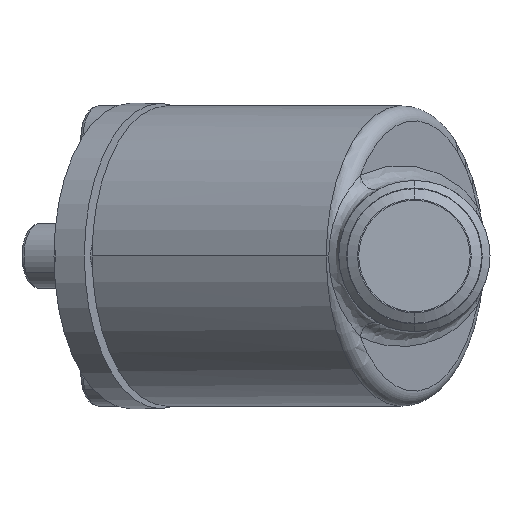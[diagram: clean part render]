
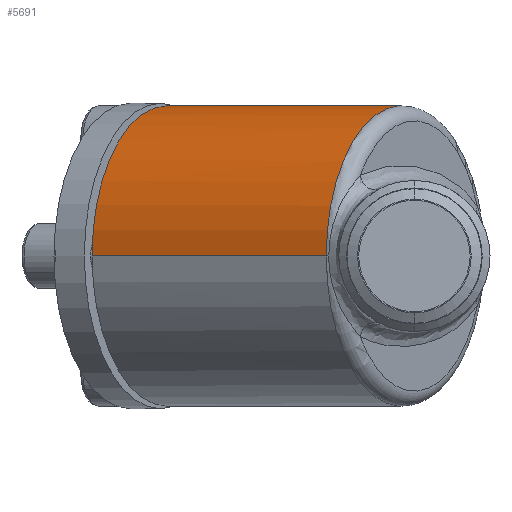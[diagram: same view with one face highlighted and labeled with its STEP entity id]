
A CAD part, left-side view. The second image highlights one B-rep face of the part: STEP entity #5691.
In plain terms, the highlighted cylindrical face has radius 30 mm (diameter 60 mm), a partial arc.
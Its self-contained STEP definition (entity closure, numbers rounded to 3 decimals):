
#559 = EDGE_CURVE ( 'NONE', #2820, #12874, #14538, .T. ) ;
#898 = ORIENTED_EDGE ( 'NONE', *, *, #559, .T. ) ;
#1265 = VERTEX_POINT ( 'NONE', #6157 ) ;
#1365 = EDGE_CURVE ( 'NONE', #1467, #2820, #6210, .T. ) ;
#1467 = VERTEX_POINT ( 'NONE', #9863 ) ;
#1639 = ORIENTED_EDGE ( 'NONE', *, *, #1365, .T. ) ;
#1674 = EDGE_CURVE ( 'NONE', #1467, #1265, #10018, .T. ) ;
#2011 = ORIENTED_EDGE ( 'NONE', *, *, #1674, .F. ) ;
#2820 = VERTEX_POINT ( 'NONE', #4894 ) ;
#4894 = CARTESIAN_POINT ( 'NONE',  ( 27., 17.598, 0. ) ) ;
#5338 = CARTESIAN_POINT ( 'NONE',  ( 76.85, -11.183, 11.847 ) ) ;
#5474 = EDGE_LOOP ( 'NONE', ( #2011, #1639, #898, #12841, #10488 ) ) ;
#5691 = ADVANCED_FACE ( 'NONE', ( #6216 ), #6217, .T. ) ;
#6157 = CARTESIAN_POINT ( 'NONE',  ( 105.962, 34.363, 0. ) ) ;
#6210 = LINE ( 'NONE', #6211, #6212 ) ;
#6211 = CARTESIAN_POINT ( 'NONE',  ( 54., 64.363, 0. ) ) ;
#6212 = VECTOR ( 'NONE', #6213, 1000. ) ;
#6213 = DIRECTION ( 'NONE',  ( -0.5, -0.866, 0. ) ) ;
#6216 = FACE_OUTER_BOUND ( 'NONE', #5474, .T. ) ;
#6217 = CYLINDRICAL_SURFACE ( 'NONE', #6218, 30. ) ;
#6218 = AXIS2_PLACEMENT_3D ( 'NONE', #6219, #6220, #6221 ) ;
#6219 = CARTESIAN_POINT ( 'NONE',  ( 79.981, 49.363, 0. ) ) ;
#6220 = DIRECTION ( 'NONE',  ( -0.5, -0.866, 0. ) ) ;
#6221 = DIRECTION ( 'NONE',  ( 0.866, -0.5, 0. ) ) ;
#9863 = CARTESIAN_POINT ( 'NONE',  ( 54., 64.363, 0. ) ) ;
#9936 = LINE ( 'NONE', #9937, #9938 ) ;
#9937 = CARTESIAN_POINT ( 'NONE',  ( 105.962, 34.363, 0. ) ) ;
#9938 = VECTOR ( 'NONE', #9939, 1000. ) ;
#9939 = DIRECTION ( 'NONE',  ( -0.5, -0.866, 0. ) ) ;
#10018 = CIRCLE ( 'NONE', #10019, 30. ) ;
#10019 = AXIS2_PLACEMENT_3D ( 'NONE', #10020, #10021, #10022 ) ;
#10020 = CARTESIAN_POINT ( 'NONE',  ( 79.981, 49.363, 0. ) ) ;
#10021 = DIRECTION ( 'NONE',  ( 0.5, 0.866, 0. ) ) ;
#10022 = DIRECTION ( 'NONE',  ( -0.866, 0.5, 0. ) ) ;
#10155 = EDGE_CURVE ( 'NONE', #1265, #10955, #9936, .T. ) ;
#10488 = ORIENTED_EDGE ( 'NONE', *, *, #10155, .F. ) ;
#10955 = VERTEX_POINT ( 'NONE', #12467 ) ;
#12467 = CARTESIAN_POINT ( 'NONE',  ( 97.438, 19.6, 0. ) ) ;
#12824 = EDGE_CURVE ( 'NONE', #12874, #10955, #12983, .T. ) ;
#12841 = ORIENTED_EDGE ( 'NONE', *, *, #12824, .T. ) ;
#12874 = VERTEX_POINT ( 'NONE', #5338 ) ;
#12983 = B_SPLINE_CURVE_WITH_KNOTS ( 'NONE', 3,
 ( #12984, #12985, #12986, #12987, #12988, #12989, #12990, #12991, #12992, #12993, #12994, #12995, #12996, #12997, #12998, #12999, #13000, #13001, #13002, #13003, #13004, #13005, #13006, #13007, #13008, #13009, #13010, #13011, #13012, #13013, #13014, #13015, #13016, #13017, #13018, #13019, #13020, #13021, #13022, #13023, #13024, #13025, #13026, #13027, #13028, #13029, #13032, #13033 ),
 .UNSPECIFIED., .F., .F.,
 ( 4, 2, 2, 2, 2, 2, 2, 2, 2, 2, 2, 2, 2, 2, 2, 2, 2, 2, 2, 2, 2, 2, 2, 4 ),
 ( 0., 0.001, 0.003, 0.006, 0.007, 0.009, 0.012, 0.013, 0.015, 0.018, 0.021, 0.022, 0.023, 0.029, 0.032, 0.035, 0.037, 0.038, 0.041, 0.043, 0.044, 0.045, 0.046, 0.047 ),
 .UNSPECIFIED. ) ;
#12984 = CARTESIAN_POINT ( 'NONE',  ( 76.85, -11.183, 11.847 ) ) ;
#12985 = CARTESIAN_POINT ( 'NONE',  ( 76.899, -10.819, 12.172 ) ) ;
#12986 = CARTESIAN_POINT ( 'NONE',  ( 76.955, -10.443, 12.48 ) ) ;
#12987 = CARTESIAN_POINT ( 'NONE',  ( 77.086, -9.668, 13.062 ) ) ;
#12988 = CARTESIAN_POINT ( 'NONE',  ( 77.161, -9.268, 13.338 ) ) ;
#12989 = CARTESIAN_POINT ( 'NONE',  ( 77.413, -8.051, 14.104 ) ) ;
#12990 = CARTESIAN_POINT ( 'NONE',  ( 77.62, -7.214, 14.541 ) ) ;
#12991 = CARTESIAN_POINT ( 'NONE',  ( 77.997, -5.928, 15.093 ) ) ;
#12992 = CARTESIAN_POINT ( 'NONE',  ( 78.134, -5.494, 15.261 ) ) ;
#12993 = CARTESIAN_POINT ( 'NONE',  ( 78.432, -4.617, 15.562 ) ) ;
#12994 = CARTESIAN_POINT ( 'NONE',  ( 78.593, -4.172, 15.696 ) ) ;
#12995 = CARTESIAN_POINT ( 'NONE',  ( 79.107, -2.851, 16.045 ) ) ;
#12996 = CARTESIAN_POINT ( 'NONE',  ( 79.489, -1.977, 16.208 ) ) ;
#12997 = CARTESIAN_POINT ( 'NONE',  ( 80.122, -0.679, 16.365 ) ) ;
#12998 = CARTESIAN_POINT ( 'NONE',  ( 80.343, -0.248, 16.402 ) ) ;
#12999 = CARTESIAN_POINT ( 'NONE',  ( 80.803, 0.61, 16.449 ) ) ;
#13000 = CARTESIAN_POINT ( 'NONE',  ( 81.043, 1.037, 16.458 ) ) ;
#13001 = CARTESIAN_POINT ( 'NONE',  ( 81.779, 2.297, 16.445 ) ) ;
#13002 = CARTESIAN_POINT ( 'NONE',  ( 82.297, 3.112, 16.384 ) ) ;
#13003 = CARTESIAN_POINT ( 'NONE',  ( 83.374, 4.703, 16.171 ) ) ;
#13004 = CARTESIAN_POINT ( 'NONE',  ( 83.934, 5.479, 16.019 ) ) ;
#13005 = CARTESIAN_POINT ( 'NONE',  ( 84.801, 6.617, 15.726 ) ) ;
#13006 = CARTESIAN_POINT ( 'NONE',  ( 85.095, 6.992, 15.618 ) ) ;
#13007 = CARTESIAN_POINT ( 'NONE',  ( 85.684, 7.728, 15.382 ) ) ;
#13008 = CARTESIAN_POINT ( 'NONE',  ( 85.981, 8.09, 15.254 ) ) ;
#13009 = CARTESIAN_POINT ( 'NONE',  ( 87.472, 9.87, 14.566 ) ) ;
#13010 = CARTESIAN_POINT ( 'NONE',  ( 88.689, 11.203, 13.865 ) ) ;
#13011 = CARTESIAN_POINT ( 'NONE',  ( 90.504, 13.088, 12.555 ) ) ;
#13012 = CARTESIAN_POINT ( 'NONE',  ( 91.099, 13.689, 12.08 ) ) ;
#13013 = CARTESIAN_POINT ( 'NONE',  ( 92.261, 14.836, 11.045 ) ) ;
#13014 = CARTESIAN_POINT ( 'NONE',  ( 92.827, 15.381, 10.484 ) ) ;
#13015 = CARTESIAN_POINT ( 'NONE',  ( 93.643, 16.155, 9.565 ) ) ;
#13016 = CARTESIAN_POINT ( 'NONE',  ( 93.91, 16.406, 9.246 ) ) ;
#13017 = CARTESIAN_POINT ( 'NONE',  ( 94.43, 16.891, 8.577 ) ) ;
#13018 = CARTESIAN_POINT ( 'NONE',  ( 94.683, 17.124, 8.227 ) ) ;
#13019 = CARTESIAN_POINT ( 'NONE',  ( 95.404, 17.786, 7.147 ) ) ;
#13020 = CARTESIAN_POINT ( 'NONE',  ( 95.84, 18.18, 6.378 ) ) ;
#13021 = CARTESIAN_POINT ( 'NONE',  ( 96.402, 18.683, 5.129 ) ) ;
#13022 = CARTESIAN_POINT ( 'NONE',  ( 96.575, 18.837, 4.694 ) ) ;
#13023 = CARTESIAN_POINT ( 'NONE',  ( 96.877, 19.105, 3.803 ) ) ;
#13024 = CARTESIAN_POINT ( 'NONE',  ( 97.006, 19.22, 3.348 ) ) ;
#13025 = CARTESIAN_POINT ( 'NONE',  ( 97.217, 19.406, 2.42 ) ) ;
#13026 = CARTESIAN_POINT ( 'NONE',  ( 97.299, 19.478, 1.946 ) ) ;
#13027 = CARTESIAN_POINT ( 'NONE',  ( 97.382, 19.551, 1.218 ) ) ;
#13028 = CARTESIAN_POINT ( 'NONE',  ( 97.403, 19.57, 0.973 ) ) ;
#13029 = CARTESIAN_POINT ( 'NONE',  ( 97.431, 19.594, 0.485 ) ) ;
#13032 = CARTESIAN_POINT ( 'NONE',  ( 97.438, 19.6, 0.242 ) ) ;
#13033 = CARTESIAN_POINT ( 'NONE',  ( 97.438, 19.6, 0. ) ) ;
#14538 = CIRCLE ( 'NONE', #14539, 30. ) ;
#14539 = AXIS2_PLACEMENT_3D ( 'NONE', #14540, #14541, #14542 ) ;
#14540 = CARTESIAN_POINT ( 'NONE',  ( 52.981, 2.598, 0. ) ) ;
#14541 = DIRECTION ( 'NONE',  ( 0.5, 0.866, 0. ) ) ;
#14542 = DIRECTION ( 'NONE',  ( -0.866, 0.5, 0. ) ) ;
